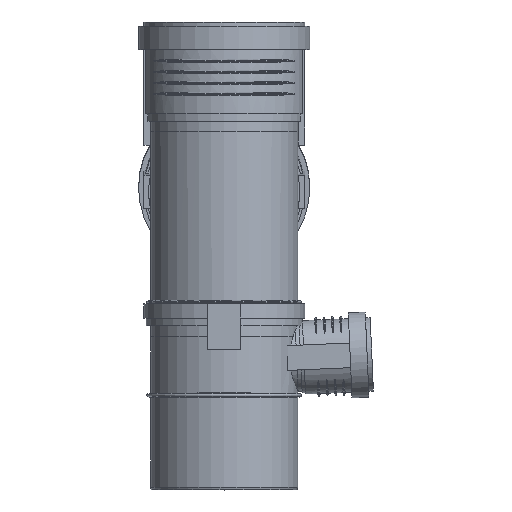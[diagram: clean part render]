
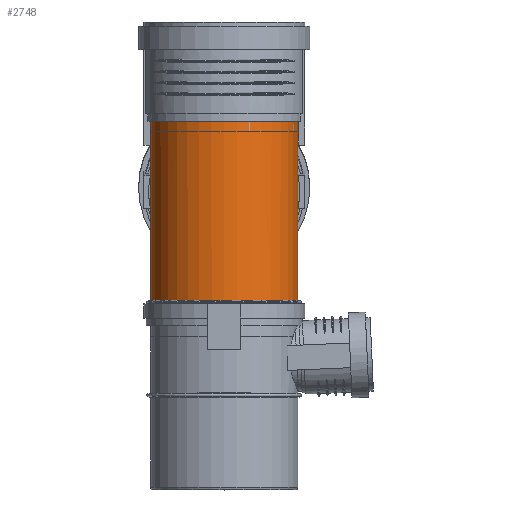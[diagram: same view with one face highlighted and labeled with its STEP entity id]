
A CAD part, top view. The second image highlights one B-rep face of the part: STEP entity #2748.
In plain terms, the highlighted cylindrical face has radius 55.1 mm (diameter 110.2 mm), a full revolution.
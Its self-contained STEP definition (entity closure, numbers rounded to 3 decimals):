
#340=B_SPLINE_CURVE_WITH_KNOTS($,3,(#5389,#5390,#5391,#5392,#5393,#5394,
#5395,#5396,#5397,#5398,#5399,#5400,#5401,#5402,#5403,#5404,#5405,#5406,
#5407,#5408,#5409,#5410,#5411,#5412,#5413,#5414,#5415,#5416,#5417,#5418,
#5419,#5420,#5421,#5422,#5423,#5424,#5425,#5426,#5427,#5428,#5429,#5430,
#5431,#5432),.UNSPECIFIED.,.F.,.F.,(4,2,2,2,2,2,2,2,2,2,2,2,2,2,2,2,2,2,
2,2,2,4),(0.,1.202,2.458,3.4,4.559,
6.655,10.232,13.771,16.647,18.787,
20.115,21.302,22.828,25.256,27.754,
31.699,35.476,37.517,38.799,40.055,
41.233,42.481),.UNSPECIFIED.);
#534=CYLINDRICAL_SURFACE($,#3016,55.1);
#614=FACE_BOUND($,#951,.T.);
#741=FACE_OUTER_BOUND($,#950,.T.);
#950=EDGE_LOOP($,(#2204,#2205));
#951=EDGE_LOOP($,(#2206));
#1124=CIRCLE($,#3017,55.1);
#1125=CIRCLE($,#3018,55.1);
#1329=VERTEX_POINT($,#5365);
#1330=VERTEX_POINT($,#5366);
#1332=VERTEX_POINT($,#5438);
#1644=EDGE_CURVE($,#1330,#1329,#340,.T.);
#1646=EDGE_CURVE($,#1329,#1330,#1124,.T.);
#1647=EDGE_CURVE($,#1332,#1332,#1125,.T.);
#2204=ORIENTED_EDGE($,*,*,#1644,.T.);
#2205=ORIENTED_EDGE($,*,*,#1646,.T.);
#2206=ORIENTED_EDGE($,*,*,#1647,.F.);
#2748=ADVANCED_FACE($,(#741,#614),#534,.T.);
#3016=AXIS2_PLACEMENT_3D($,#5436,#3602,#3603);
#3017=AXIS2_PLACEMENT_3D($,#5437,#3604,#3605);
#3018=AXIS2_PLACEMENT_3D($,#5439,#3606,#3607);
#3602=DIRECTION('center_axis',(0.,1.,0.));
#3603=DIRECTION('ref_axis',(-1.,0.,0.));
#3604=DIRECTION('center_axis',(0.,1.,0.));
#3605=DIRECTION('ref_axis',(-1.,0.,0.));
#3606=DIRECTION('center_axis',(0.,1.,0.));
#3607=DIRECTION('ref_axis',(-1.,0.,0.));
#5365=CARTESIAN_POINT('',(34.721,71.6,-42.784));
#5366=CARTESIAN_POINT('',(34.721,71.6,42.784));
#5389=CARTESIAN_POINT('Ctrl Pts',(34.721,71.6,42.784));
#5390=CARTESIAN_POINT('Ctrl Pts',(31.767,72.854,45.181));
#5391=CARTESIAN_POINT('Ctrl Pts',(28.835,74.32,47.052));
#5392=CARTESIAN_POINT('Ctrl Pts',(23.337,77.963,50.016));
#5393=CARTESIAN_POINT('Ctrl Pts',(20.698,80.231,51.115));
#5394=CARTESIAN_POINT('Ctrl Pts',(16.952,85.337,52.455));
#5395=CARTESIAN_POINT('Ctrl Pts',(15.741,87.74,52.811));
#5396=CARTESIAN_POINT('Ctrl Pts',(13.818,93.595,53.351));
#5397=CARTESIAN_POINT('Ctrl Pts',(13.329,97.032,53.464));
#5398=CARTESIAN_POINT('Ctrl Pts',(12.948,106.582,53.558));
#5399=CARTESIAN_POINT('Ctrl Pts',(13.835,113.182,53.351));
#5400=CARTESIAN_POINT('Ctrl Pts',(17.236,129.435,52.382));
#5401=CARTESIAN_POINT('Ctrl Pts',(20.995,140.51,51.201));
#5402=CARTESIAN_POINT('Ctrl Pts',(30.042,161.737,46.468));
#5403=CARTESIAN_POINT('Ctrl Pts',(35.016,171.274,43.063));
#5404=CARTESIAN_POINT('Ctrl Pts',(43.414,185.979,34.361));
#5405=CARTESIAN_POINT('Ctrl Pts',(46.697,191.202,29.795));
#5406=CARTESIAN_POINT('Ctrl Pts',(51.144,198.079,20.933));
#5407=CARTESIAN_POINT('Ctrl Pts',(52.757,200.478,16.633));
#5408=CARTESIAN_POINT('Ctrl Pts',(54.463,202.99,8.888));
#5409=CARTESIAN_POINT('Ctrl Pts',(54.886,203.604,5.8));
#5410=CARTESIAN_POINT('Ctrl Pts',(55.173,204.021,-0.209));
#5411=CARTESIAN_POINT('Ctrl Pts',(55.088,203.899,-3.043));
#5412=CARTESIAN_POINT('Ctrl Pts',(54.406,202.905,-9.435));
#5413=CARTESIAN_POINT('Ctrl Pts',(53.683,201.849,-12.861));
#5414=CARTESIAN_POINT('Ctrl Pts',(51.144,198.067,-21.187));
#5415=CARTESIAN_POINT('Ctrl Pts',(48.848,194.608,-26.032));
#5416=CARTESIAN_POINT('Ctrl Pts',(42.941,185.109,-34.95));
#5417=CARTESIAN_POINT('Ctrl Pts',(39.63,179.503,-38.519));
#5418=CARTESIAN_POINT('Ctrl Pts',(31.364,164.271,-45.802));
#5419=CARTESIAN_POINT('Ctrl Pts',(26.368,153.842,-48.585));
#5420=CARTESIAN_POINT('Ctrl Pts',(18.407,132.909,-52.109));
#5421=CARTESIAN_POINT('Ctrl Pts',(15.384,122.481,-52.928));
#5422=CARTESIAN_POINT('Ctrl Pts',(13.24,107.973,-53.491));
#5423=CARTESIAN_POINT('Ctrl Pts',(12.861,102.471,-53.581));
#5424=CARTESIAN_POINT('Ctrl Pts',(13.771,94.102,-53.353));
#5425=CARTESIAN_POINT('Ctrl Pts',(14.502,90.919,-53.174));
#5426=CARTESIAN_POINT('Ctrl Pts',(17.064,85.052,-52.408));
#5427=CARTESIAN_POINT('Ctrl Pts',(18.786,82.551,-51.85));
#5428=CARTESIAN_POINT('Ctrl Pts',(22.932,78.312,-50.148));
#5429=CARTESIAN_POINT('Ctrl Pts',(25.181,76.654,-49.081));
#5430=CARTESIAN_POINT('Ctrl Pts',(29.904,73.779,-46.364));
#5431=CARTESIAN_POINT('Ctrl Pts',(32.367,72.599,-44.695));
#5432=CARTESIAN_POINT('Ctrl Pts',(34.721,71.6,-42.784));
#5436=CARTESIAN_POINT('Origin',(0.,141.69,0.));
#5437=CARTESIAN_POINT('Origin',(0.,71.6,0.));
#5438=CARTESIAN_POINT('',(-55.1,211.78,0.));
#5439=CARTESIAN_POINT('Origin',(0.,211.78,0.));
